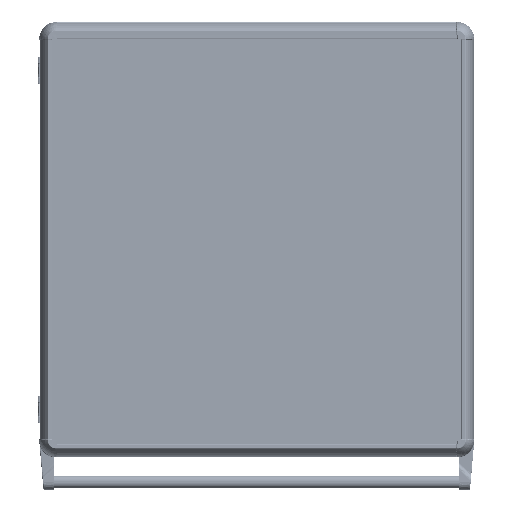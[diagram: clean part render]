
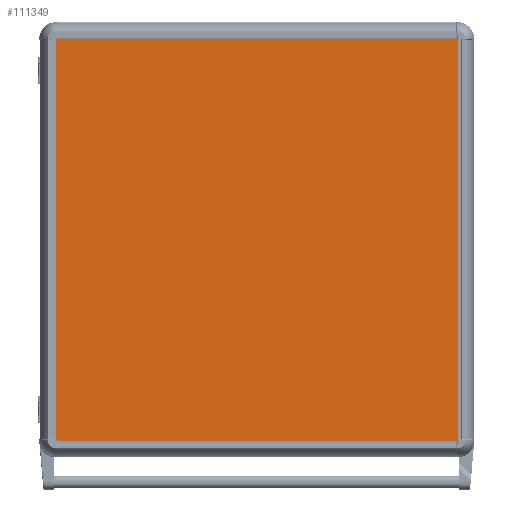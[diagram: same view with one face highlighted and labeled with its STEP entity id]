
A CAD part, top view. The second image highlights one B-rep face of the part: STEP entity #111349.
In plain terms, the highlighted planar face has unit normal (0, 0, 1).
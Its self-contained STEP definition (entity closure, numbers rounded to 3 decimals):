
#6055 = ORIENTED_EDGE ( 'NONE', *, *, #126882, .T. ) ;
#15117 = CARTESIAN_POINT ( 'NONE',  ( -300., -300., 2. ) ) ;
#38506 = CARTESIAN_POINT ( 'NONE',  ( 300., -300., 2. ) ) ;
#39774 = CARTESIAN_POINT ( 'NONE',  ( -300., -300., 2. ) ) ;
#55642 = CARTESIAN_POINT ( 'NONE',  ( -300., 300., 2. ) ) ;
#58150 = VERTEX_POINT ( 'NONE', #396498 ) ;
#59708 = DIRECTION ( 'NONE',  ( 1., 0., 0. ) ) ;
#77128 = VERTEX_POINT ( 'NONE', #38506 ) ;
#106375 = DIRECTION ( 'NONE',  ( 1., 0., 0. ) ) ;
#111349 = ADVANCED_FACE ( 'NONE', ( #152795 ), #284284, .T. ) ;
#111612 = ORIENTED_EDGE ( 'NONE', *, *, #323439, .T. ) ;
#114395 = CARTESIAN_POINT ( 'NONE',  ( -300., 300., 2. ) ) ;
#120478 = DIRECTION ( 'NONE',  ( -1., 0., 0. ) ) ;
#126882 = EDGE_CURVE ( 'NONE', #136324, #417064, #209318, .T. ) ;
#136324 = VERTEX_POINT ( 'NONE', #372108 ) ;
#138093 = VECTOR ( 'NONE', #269774, 1000. ) ;
#138821 = LINE ( 'NONE', #15117, #259922 ) ;
#152795 = FACE_OUTER_BOUND ( 'NONE', #256096, .T. ) ;
#201059 = VECTOR ( 'NONE', #120478, 1000. ) ;
#209233 = EDGE_CURVE ( 'NONE', #58150, #136324, #284458, .T. ) ;
#209318 = LINE ( 'NONE', #114395, #276376 ) ;
#251433 = EDGE_CURVE ( 'NONE', #417064, #77128, #138821, .T. ) ;
#256096 = EDGE_LOOP ( 'NONE', ( #111612, #382532, #6055, #381370 ) ) ;
#259922 = VECTOR ( 'NONE', #106375, 1000. ) ;
#269774 = DIRECTION ( 'NONE',  ( 0., 1., 0. ) ) ;
#276179 = DIRECTION ( 'NONE',  ( 0., -1., 0. ) ) ;
#276376 = VECTOR ( 'NONE', #276179, 1000. ) ;
#284284 = PLANE ( 'NONE',  #379707 ) ;
#284458 = LINE ( 'NONE', #55642, #201059 ) ;
#304404 = CARTESIAN_POINT ( 'NONE',  ( 300., 300., 2. ) ) ;
#314640 = DIRECTION ( 'NONE',  ( 0., 0., 1. ) ) ;
#321028 = CARTESIAN_POINT ( 'NONE',  ( 0., 0., 2. ) ) ;
#323439 = EDGE_CURVE ( 'NONE', #77128, #58150, #403780, .T. ) ;
#372108 = CARTESIAN_POINT ( 'NONE',  ( -300., 300., 2. ) ) ;
#379707 = AXIS2_PLACEMENT_3D ( 'NONE', #321028, #314640, #59708 ) ;
#381370 = ORIENTED_EDGE ( 'NONE', *, *, #251433, .T. ) ;
#382532 = ORIENTED_EDGE ( 'NONE', *, *, #209233, .T. ) ;
#396498 = CARTESIAN_POINT ( 'NONE',  ( 300., 300., 2. ) ) ;
#403780 = LINE ( 'NONE', #304404, #138093 ) ;
#417064 = VERTEX_POINT ( 'NONE', #39774 ) ;
